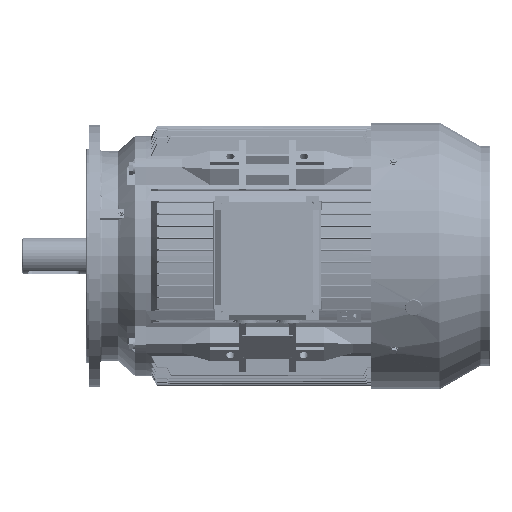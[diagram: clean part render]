
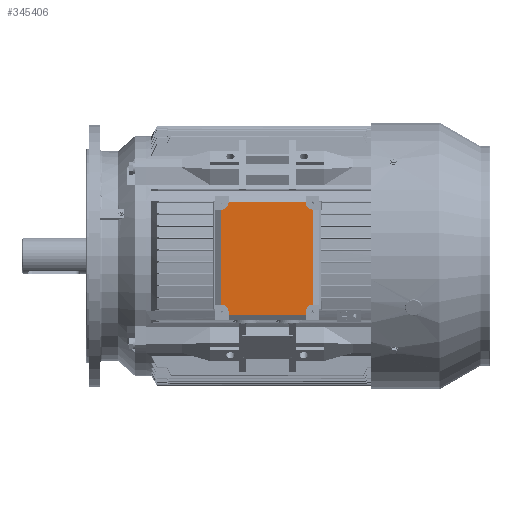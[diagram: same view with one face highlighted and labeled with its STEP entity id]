
A CAD part, top view. The second image highlights one B-rep face of the part: STEP entity #345406.
In plain terms, the highlighted planar face has unit normal (0, 0, 1).
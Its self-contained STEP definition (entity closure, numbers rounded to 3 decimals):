
#156 = EDGE_CURVE ( 'NONE', #198999, #296187, #314482, .T. ) ;
#4591 = CARTESIAN_POINT ( 'NONE',  ( -24.908, 116.987, 386.917 ) ) ;
#8644 = LINE ( 'NONE', #179253, #61951 ) ;
#10176 = CARTESIAN_POINT ( 'NONE',  ( 137.092, -119.013, 386.917 ) ) ;
#12896 = CARTESIAN_POINT ( 'NONE',  ( -24.908, 116.987, 386.917 ) ) ;
#13093 = VECTOR ( 'NONE', #22807, 1000. ) ;
#15752 = CARTESIAN_POINT ( 'NONE',  ( -40.908, 100.987, 386.917 ) ) ;
#18466 = DIRECTION ( 'NONE',  ( 0., 1., 0. ) ) ;
#19154 = VERTEX_POINT ( 'NONE', #327416 ) ;
#22807 = DIRECTION ( 'NONE',  ( 0., -1., 0. ) ) ;
#23629 = ORIENTED_EDGE ( 'NONE', *, *, #39050, .F. ) ;
#23988 = LINE ( 'NONE', #359802, #58356 ) ;
#30442 = CIRCLE ( 'NONE', #229500, 15. ) ;
#31198 = VERTEX_POINT ( 'NONE', #84078 ) ;
#32020 = EDGE_CURVE ( 'NONE', #208091, #19154, #225822, .T. ) ;
#38574 = CARTESIAN_POINT ( 'NONE',  ( -40.908, -98.013, 386.917 ) ) ;
#39050 = EDGE_CURVE ( 'NONE', #31198, #193836, #356368, .T. ) ;
#40664 = AXIS2_PLACEMENT_3D ( 'NONE', #338079, #277623, #334467 ) ;
#41610 = CARTESIAN_POINT ( 'NONE',  ( -40.908, -98.013, 386.917 ) ) ;
#42939 = VECTOR ( 'NONE', #352642, 1000. ) ;
#44990 = CARTESIAN_POINT ( 'NONE',  ( 152.092, 100.987, 386.917 ) ) ;
#49558 = CARTESIAN_POINT ( 'NONE',  ( -39.908, 115.987, 386.917 ) ) ;
#56714 = DIRECTION ( 'NONE',  ( 0., -1., 0. ) ) ;
#57359 = EDGE_CURVE ( 'NONE', #210549, #179167, #112535, .T. ) ;
#58356 = VECTOR ( 'NONE', #93005, 1000. ) ;
#61568 = EDGE_CURVE ( 'NONE', #271353, #302365, #132979, .T. ) ;
#61951 = VECTOR ( 'NONE', #91238, 1000. ) ;
#62374 = VECTOR ( 'NONE', #167164, 1000. ) ;
#65682 = ORIENTED_EDGE ( 'NONE', *, *, #323732, .F. ) ;
#66688 = CARTESIAN_POINT ( 'NONE',  ( -52.908, -98.013, 386.917 ) ) ;
#67026 = ORIENTED_EDGE ( 'NONE', *, *, #61568, .F. ) ;
#74391 = DIRECTION ( 'NONE',  ( 0., 0., 1. ) ) ;
#77157 = CARTESIAN_POINT ( 'NONE',  ( 152.092, 115.987, 386.917 ) ) ;
#78956 = DIRECTION ( 'NONE',  ( 0., 0., 1. ) ) ;
#84078 = CARTESIAN_POINT ( 'NONE',  ( -24.908, 115.987, 386.917 ) ) ;
#84444 = DIRECTION ( 'NONE',  ( 1., 0., 0. ) ) ;
#88649 = CARTESIAN_POINT ( 'NONE',  ( 152.092, -113.013, 386.917 ) ) ;
#91238 = DIRECTION ( 'NONE',  ( 1., 0., 0. ) ) ;
#93005 = DIRECTION ( 'NONE',  ( 0., 1., 0. ) ) ;
#95688 = CIRCLE ( 'NONE', #142574, 15. ) ;
#95990 = ORIENTED_EDGE ( 'NONE', *, *, #32020, .T. ) ;
#96385 = VERTEX_POINT ( 'NONE', #10176 ) ;
#96403 = VERTEX_POINT ( 'NONE', #44990 ) ;
#105091 = EDGE_CURVE ( 'NONE', #179167, #31198, #324233, .T. ) ;
#105795 = LINE ( 'NONE', #41610, #355958 ) ;
#111506 = CARTESIAN_POINT ( 'NONE',  ( 137.092, -113.013, 386.917 ) ) ;
#112535 = LINE ( 'NONE', #244784, #291617 ) ;
#120009 = CARTESIAN_POINT ( 'NONE',  ( -39.908, 100.987, 386.917 ) ) ;
#121956 = ORIENTED_EDGE ( 'NONE', *, *, #223775, .T. ) ;
#128834 = LINE ( 'NONE', #240730, #42939 ) ;
#132229 = ORIENTED_EDGE ( 'NONE', *, *, #347664, .F. ) ;
#132979 = LINE ( 'NONE', #331090, #13093 ) ;
#133116 = VECTOR ( 'NONE', #160035, 1000. ) ;
#134015 = DIRECTION ( 'NONE',  ( 0., 1., 0. ) ) ;
#135165 = ORIENTED_EDGE ( 'NONE', *, *, #250587, .F. ) ;
#142574 = AXIS2_PLACEMENT_3D ( 'NONE', #88649, #204218, #257445 ) ;
#143102 = CARTESIAN_POINT ( 'NONE',  ( 137.092, -119.013, 386.917 ) ) ;
#148225 = CARTESIAN_POINT ( 'NONE',  ( 153.092, -98.013, 386.917 ) ) ;
#151183 = VERTEX_POINT ( 'NONE', #199919 ) ;
#155175 = DIRECTION ( 'NONE',  ( 0., 1., 0. ) ) ;
#159588 = ORIENTED_EDGE ( 'NONE', *, *, #233481, .F. ) ;
#160035 = DIRECTION ( 'NONE',  ( 0., 1., 0. ) ) ;
#160122 = VERTEX_POINT ( 'NONE', #111506 ) ;
#165608 = VECTOR ( 'NONE', #281735, 1000. ) ;
#166789 = CARTESIAN_POINT ( 'NONE',  ( 137.092, 115.987, 386.917 ) ) ;
#167164 = DIRECTION ( 'NONE',  ( 0., 1., 0. ) ) ;
#172401 = LINE ( 'NONE', #143102, #196637 ) ;
#173205 = VECTOR ( 'NONE', #204377, 1000. ) ;
#174222 = CARTESIAN_POINT ( 'NONE',  ( 152.092, -98.013, 386.917 ) ) ;
#179167 = VERTEX_POINT ( 'NONE', #120009 ) ;
#179253 = CARTESIAN_POINT ( 'NONE',  ( 165.092, 100.987, 386.917 ) ) ;
#182895 = DIRECTION ( 'NONE',  ( 0., -1., 0. ) ) ;
#187227 = DIRECTION ( 'NONE',  ( 0., 0., 1. ) ) ;
#193836 = VERTEX_POINT ( 'NONE', #12896 ) ;
#194731 = CARTESIAN_POINT ( 'NONE',  ( 153.092, 100.987, 386.917 ) ) ;
#196637 = VECTOR ( 'NONE', #84444, 1000. ) ;
#198999 = VERTEX_POINT ( 'NONE', #284451 ) ;
#199919 = CARTESIAN_POINT ( 'NONE',  ( -24.908, -113.013, 386.917 ) ) ;
#202376 = VERTEX_POINT ( 'NONE', #321738 ) ;
#204218 = DIRECTION ( 'NONE',  ( 0., 0., 1. ) ) ;
#204377 = DIRECTION ( 'NONE',  ( -1., 0., 0. ) ) ;
#208091 = VERTEX_POINT ( 'NONE', #148225 ) ;
#210549 = VERTEX_POINT ( 'NONE', #15752 ) ;
#213778 = ORIENTED_EDGE ( 'NONE', *, *, #57359, .F. ) ;
#218481 = EDGE_CURVE ( 'NONE', #208091, #271214, #128834, .T. ) ;
#223577 = ORIENTED_EDGE ( 'NONE', *, *, #320564, .F. ) ;
#223775 = EDGE_CURVE ( 'NONE', #271353, #193836, #228452, .T. ) ;
#224430 = DIRECTION ( 'NONE',  ( 1., 0., 0. ) ) ;
#225822 = LINE ( 'NONE', #194731, #62374 ) ;
#228452 = LINE ( 'NONE', #4591, #165608 ) ;
#228822 = ORIENTED_EDGE ( 'NONE', *, *, #156, .F. ) ;
#229500 = AXIS2_PLACEMENT_3D ( 'NONE', #77157, #78956, #18466 ) ;
#233481 = EDGE_CURVE ( 'NONE', #202376, #151183, #23988, .T. ) ;
#234886 = ORIENTED_EDGE ( 'NONE', *, *, #105091, .F. ) ;
#240730 = CARTESIAN_POINT ( 'NONE',  ( 165.092, -98.013, 386.917 ) ) ;
#242611 = CARTESIAN_POINT ( 'NONE',  ( -24.908, 128.987, 386.917 ) ) ;
#244784 = CARTESIAN_POINT ( 'NONE',  ( -52.908, 100.987, 386.917 ) ) ;
#250209 = EDGE_LOOP ( 'NONE', ( #275305, #95990, #292494, #132229, #67026, #121956, #23629, #234886, #213778, #328735, #228822, #135165, #159588, #340401, #65682, #223577 ) ) ;
#250587 = EDGE_CURVE ( 'NONE', #151183, #198999, #317648, .T. ) ;
#257445 = DIRECTION ( 'NONE',  ( 0., 1., 0. ) ) ;
#267088 = CARTESIAN_POINT ( 'NONE',  ( -39.908, -113.013, 386.917 ) ) ;
#271214 = VERTEX_POINT ( 'NONE', #174222 ) ;
#271353 = VERTEX_POINT ( 'NONE', #295272 ) ;
#275305 = ORIENTED_EDGE ( 'NONE', *, *, #218481, .F. ) ;
#277623 = DIRECTION ( 'NONE',  ( 0., 0., 1. ) ) ;
#281735 = DIRECTION ( 'NONE',  ( -1., 0., 0. ) ) ;
#284451 = CARTESIAN_POINT ( 'NONE',  ( -39.908, -98.013, 386.917 ) ) ;
#291617 = VECTOR ( 'NONE', #224430, 1000. ) ;
#292494 = ORIENTED_EDGE ( 'NONE', *, *, #338711, .F. ) ;
#295272 = CARTESIAN_POINT ( 'NONE',  ( 137.092, 116.987, 386.917 ) ) ;
#296187 = VERTEX_POINT ( 'NONE', #38574 ) ;
#302365 = VERTEX_POINT ( 'NONE', #166789 ) ;
#304531 = CARTESIAN_POINT ( 'NONE',  ( 137.092, -131.013, 386.917 ) ) ;
#310531 = PLANE ( 'NONE',  #40664 ) ;
#314482 = LINE ( 'NONE', #66688, #173205 ) ;
#317648 = CIRCLE ( 'NONE', #323478, 15. ) ;
#320564 = EDGE_CURVE ( 'NONE', #271214, #160122, #95688, .T. ) ;
#321738 = CARTESIAN_POINT ( 'NONE',  ( -24.908, -119.013, 386.917 ) ) ;
#323478 = AXIS2_PLACEMENT_3D ( 'NONE', #267088, #74391, #155175 ) ;
#323732 = EDGE_CURVE ( 'NONE', #160122, #96385, #332052, .T. ) ;
#324233 = CIRCLE ( 'NONE', #359586, 15. ) ;
#327416 = CARTESIAN_POINT ( 'NONE',  ( 153.092, 100.987, 386.917 ) ) ;
#328735 = ORIENTED_EDGE ( 'NONE', *, *, #350318, .T. ) ;
#331090 = CARTESIAN_POINT ( 'NONE',  ( 137.092, 128.987, 386.917 ) ) ;
#332052 = LINE ( 'NONE', #304531, #342902 ) ;
#334467 = DIRECTION ( 'NONE',  ( 0., -1., 0. ) ) ;
#336284 = FACE_OUTER_BOUND ( 'NONE', #250209, .T. ) ;
#337173 = EDGE_CURVE ( 'NONE', #202376, #96385, #172401, .T. ) ;
#338079 = CARTESIAN_POINT ( 'NONE',  ( -52.908, 128.987, 386.917 ) ) ;
#338711 = EDGE_CURVE ( 'NONE', #96403, #19154, #8644, .T. ) ;
#340401 = ORIENTED_EDGE ( 'NONE', *, *, #337173, .T. ) ;
#342902 = VECTOR ( 'NONE', #56714, 1000. ) ;
#345406 = ADVANCED_FACE ( 'NONE', ( #336284 ), #310531, .T. ) ;
#347664 = EDGE_CURVE ( 'NONE', #302365, #96403, #30442, .T. ) ;
#350318 = EDGE_CURVE ( 'NONE', #210549, #296187, #105795, .T. ) ;
#352642 = DIRECTION ( 'NONE',  ( -1., 0., 0. ) ) ;
#355958 = VECTOR ( 'NONE', #182895, 1000. ) ;
#356368 = LINE ( 'NONE', #242611, #133116 ) ;
#359586 = AXIS2_PLACEMENT_3D ( 'NONE', #49558, #187227, #134015 ) ;
#359802 = CARTESIAN_POINT ( 'NONE',  ( -24.908, -131.013, 386.917 ) ) ;
